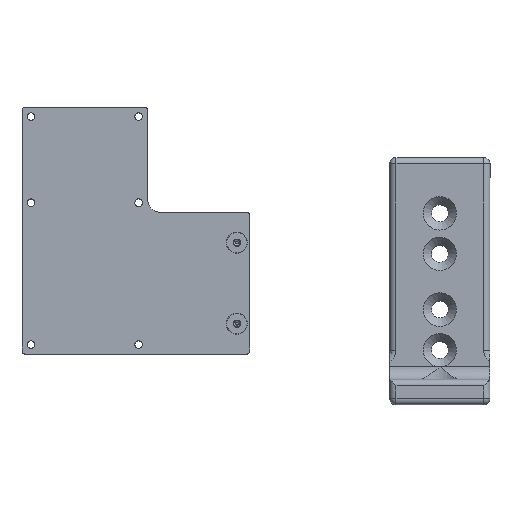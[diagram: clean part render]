
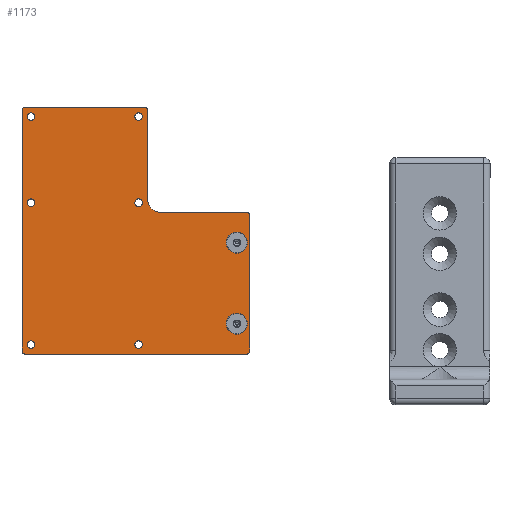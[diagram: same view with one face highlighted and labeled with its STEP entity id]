
A CAD part, top view. The second image highlights one B-rep face of the part: STEP entity #1173.
In plain terms, the highlighted planar face has unit normal (0, 0, 1).
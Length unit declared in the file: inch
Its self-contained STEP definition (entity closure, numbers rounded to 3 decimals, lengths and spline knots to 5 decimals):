
#653=CARTESIAN_POINT('',(38.4668,-2.79607,-11.998));
#654=VERTEX_POINT('',#653);
#655=CARTESIAN_POINT('',(38.4668,-2.58807,-11.998));
#656=DIRECTION('',(0.0,0.0,-1.0));
#657=DIRECTION('',(0.0,-1.0,0.0));
#658=AXIS2_PLACEMENT_3D('',#655,#656,#657);
#659=CIRCLE('',#658,0.208);
#660=EDGE_CURVE('',#654,#654,#659,.T.);
#681=CARTESIAN_POINT('',(38.4668,-4.39607,-11.998));
#682=VERTEX_POINT('',#681);
#683=CARTESIAN_POINT('',(38.4668,-4.18807,-11.998));
#684=DIRECTION('',(0.0,0.0,-1.0));
#685=DIRECTION('',(0.0,-1.0,0.0));
#686=AXIS2_PLACEMENT_3D('',#683,#684,#685);
#687=CIRCLE('',#686,0.208);
#688=EDGE_CURVE('',#682,#682,#687,.T.);
#698=CARTESIAN_POINT('',(36.4538,-4.60007,-11.998));
#699=VERTEX_POINT('',#698);
#700=CARTESIAN_POINT('',(36.5288,-4.60007,-11.998));
#701=DIRECTION('',(0.0,0.0,-1.0));
#702=DIRECTION('',(1.0,0.0,0.0));
#703=AXIS2_PLACEMENT_3D('',#700,#701,#702);
#704=CIRCLE('',#703,0.075);
#705=EDGE_CURVE('',#699,#699,#704,.T.);
#718=CARTESIAN_POINT('',(34.3288,-4.60007,-11.998));
#719=VERTEX_POINT('',#718);
#720=CARTESIAN_POINT('',(34.4038,-4.60007,-11.998));
#721=DIRECTION('',(0.0,0.0,-1.0));
#722=DIRECTION('',(1.0,0.0,0.0));
#723=AXIS2_PLACEMENT_3D('',#720,#721,#722);
#724=CIRCLE('',#723,0.075);
#725=EDGE_CURVE('',#719,#719,#724,.T.);
#738=CARTESIAN_POINT('',(34.3288,-1.80007,-11.998));
#739=VERTEX_POINT('',#738);
#740=CARTESIAN_POINT('',(34.4038,-1.80007,-11.998));
#741=DIRECTION('',(0.0,0.0,-1.0));
#742=DIRECTION('',(1.0,0.0,0.0));
#743=AXIS2_PLACEMENT_3D('',#740,#741,#742);
#744=CIRCLE('',#743,0.075);
#745=EDGE_CURVE('',#739,#739,#744,.T.);
#758=CARTESIAN_POINT('',(36.4538,-1.80007,-11.998));
#759=VERTEX_POINT('',#758);
#760=CARTESIAN_POINT('',(36.5288,-1.80007,-11.998));
#761=DIRECTION('',(0.0,0.0,-1.0));
#762=DIRECTION('',(1.0,0.0,0.0));
#763=AXIS2_PLACEMENT_3D('',#760,#761,#762);
#764=CIRCLE('',#763,0.075);
#765=EDGE_CURVE('',#759,#759,#764,.T.);
#778=CARTESIAN_POINT('',(36.4538,-0.10007,-11.998));
#779=VERTEX_POINT('',#778);
#780=CARTESIAN_POINT('',(36.5288,-0.10007,-11.998));
#781=DIRECTION('',(0.0,0.0,-1.0));
#782=DIRECTION('',(1.0,0.0,0.0));
#783=AXIS2_PLACEMENT_3D('',#780,#781,#782);
#784=CIRCLE('',#783,0.075);
#785=EDGE_CURVE('',#779,#779,#784,.T.);
#798=CARTESIAN_POINT('',(34.3288,-0.10007,-11.998));
#799=VERTEX_POINT('',#798);
#800=CARTESIAN_POINT('',(34.4038,-0.10007,-11.998));
#801=DIRECTION('',(0.0,0.0,-1.0));
#802=DIRECTION('',(1.0,0.0,0.0));
#803=AXIS2_PLACEMENT_3D('',#800,#801,#802);
#804=CIRCLE('',#803,0.075);
#805=EDGE_CURVE('',#799,#799,#804,.T.);
#831=CARTESIAN_POINT('',(36.9568,-1.98807,-11.998));
#832=VERTEX_POINT('',#831);
#839=CARTESIAN_POINT('',(38.6548,-1.98807,-11.998));
#840=VERTEX_POINT('',#839);
#841=CARTESIAN_POINT('',(38.6548,-1.98807,-11.998));
#842=DIRECTION('',(-1.0,0.0,0.0));
#843=VECTOR('',#842,1.698);
#844=LINE('',#841,#843);
#845=EDGE_CURVE('',#840,#832,#844,.T.);
#864=CARTESIAN_POINT('',(36.7068,-1.73807,-11.998));
#865=VERTEX_POINT('',#864);
#872=CARTESIAN_POINT('',(36.9568,-1.73807,-11.998));
#873=DIRECTION('',(0.,0.,-1.));
#874=DIRECTION('',(-0.707,-0.707,0.));
#875=AXIS2_PLACEMENT_3D('',#872,#873,#874);
#876=CIRCLE('',#875,0.25);
#877=EDGE_CURVE('',#832,#865,#876,.T.);
#889=CARTESIAN_POINT('',(36.7068,0.02493,-11.998));
#890=VERTEX_POINT('',#889);
#897=CARTESIAN_POINT('',(36.7068,-1.73807,-11.998));
#898=DIRECTION('',(0.0,1.0,0.0));
#899=VECTOR('',#898,1.763);
#900=LINE('',#897,#899);
#901=EDGE_CURVE('',#865,#890,#900,.T.);
#913=CARTESIAN_POINT('',(36.6448,0.08693,-11.998));
#914=VERTEX_POINT('',#913);
#921=CARTESIAN_POINT('',(36.6448,0.02493,-11.998));
#922=DIRECTION('',(0.,0.,1.0));
#923=DIRECTION('',(0.707,0.707,0.));
#924=AXIS2_PLACEMENT_3D('',#921,#922,#923);
#925=CIRCLE('',#924,0.062);
#926=EDGE_CURVE('',#890,#914,#925,.T.);
#938=CARTESIAN_POINT('',(34.2888,0.08693,-11.998));
#939=VERTEX_POINT('',#938);
#946=CARTESIAN_POINT('',(36.6448,0.08693,-11.998));
#947=DIRECTION('',(-1.0,0.0,0.0));
#948=VECTOR('',#947,2.356);
#949=LINE('',#946,#948);
#950=EDGE_CURVE('',#914,#939,#949,.T.);
#962=CARTESIAN_POINT('',(34.2268,0.02493,-11.998));
#963=VERTEX_POINT('',#962);
#970=CARTESIAN_POINT('',(34.2888,0.02493,-11.998));
#971=DIRECTION('',(0.,0.,1.0));
#972=DIRECTION('',(-0.707,0.707,0.));
#973=AXIS2_PLACEMENT_3D('',#970,#971,#972);
#974=CIRCLE('',#973,0.062);
#975=EDGE_CURVE('',#939,#963,#974,.T.);
#987=CARTESIAN_POINT('',(34.2268,-4.72607,-11.998));
#988=VERTEX_POINT('',#987);
#995=CARTESIAN_POINT('',(34.2268,0.02493,-11.998));
#996=DIRECTION('',(0.0,-1.0,0.0));
#997=VECTOR('',#996,4.751);
#998=LINE('',#995,#997);
#999=EDGE_CURVE('',#963,#988,#998,.T.);
#1011=CARTESIAN_POINT('',(34.2888,-4.78807,-11.998));
#1012=VERTEX_POINT('',#1011);
#1019=CARTESIAN_POINT('',(34.2888,-4.72607,-11.998));
#1020=DIRECTION('',(0.,0.,1.0));
#1021=DIRECTION('',(-0.707,-0.707,0.));
#1022=AXIS2_PLACEMENT_3D('',#1019,#1020,#1021);
#1023=CIRCLE('',#1022,0.062);
#1024=EDGE_CURVE('',#988,#1012,#1023,.T.);
#1038=CARTESIAN_POINT('',(38.6548,-4.78807,-11.998));
#1039=VERTEX_POINT('',#1038);
#1046=CARTESIAN_POINT('',(34.2888,-4.78807,-11.998));
#1047=DIRECTION('',(1.0,0.0,0.0));
#1048=VECTOR('',#1047,4.366);
#1049=LINE('',#1046,#1048);
#1050=EDGE_CURVE('',#1012,#1039,#1049,.T.);
#1061=CARTESIAN_POINT('',(38.7168,-4.72607,-11.998));
#1062=VERTEX_POINT('',#1061);
#1069=CARTESIAN_POINT('',(38.6548,-4.72607,-11.998));
#1070=DIRECTION('',(0.,0.,1.));
#1071=DIRECTION('',(0.707,-0.707,0.));
#1072=AXIS2_PLACEMENT_3D('',#1069,#1070,#1071);
#1073=CIRCLE('',#1072,0.062);
#1074=EDGE_CURVE('',#1039,#1062,#1073,.T.);
#1086=CARTESIAN_POINT('',(38.7168,-2.05007,-11.998));
#1087=VERTEX_POINT('',#1086);
#1094=CARTESIAN_POINT('',(38.7168,-4.72607,-11.998));
#1095=DIRECTION('',(0.0,1.0,0.0));
#1096=VECTOR('',#1095,2.676);
#1097=LINE('',#1094,#1096);
#1098=EDGE_CURVE('',#1062,#1087,#1097,.T.);
#1118=CARTESIAN_POINT('',(38.6548,-2.05007,-11.998));
#1119=DIRECTION('',(0.,0.,1.));
#1120=DIRECTION('',(0.707,0.707,0.));
#1121=AXIS2_PLACEMENT_3D('',#1118,#1119,#1120);
#1122=CIRCLE('',#1121,0.062);
#1123=EDGE_CURVE('',#1087,#840,#1122,.T.);
#1130=CARTESIAN_POINT('',(36.24482,-2.57848,-11.998));
#1131=DIRECTION('',(0.0,0.0,-1.0));
#1132=DIRECTION('',(1.0,0.0,0.0));
#1133=AXIS2_PLACEMENT_3D('',#1130,#1131,#1132);
#1134=PLANE('',#1133);
#1135=ORIENTED_EDGE('',*,*,#1123,.T.);
#1136=ORIENTED_EDGE('',*,*,#845,.T.);
#1137=ORIENTED_EDGE('',*,*,#877,.T.);
#1138=ORIENTED_EDGE('',*,*,#901,.T.);
#1139=ORIENTED_EDGE('',*,*,#926,.T.);
#1140=ORIENTED_EDGE('',*,*,#950,.T.);
#1141=ORIENTED_EDGE('',*,*,#975,.T.);
#1142=ORIENTED_EDGE('',*,*,#999,.T.);
#1143=ORIENTED_EDGE('',*,*,#1024,.T.);
#1144=ORIENTED_EDGE('',*,*,#1050,.T.);
#1145=ORIENTED_EDGE('',*,*,#1074,.T.);
#1146=ORIENTED_EDGE('',*,*,#1098,.T.);
#1147=EDGE_LOOP('',(#1135,#1136,#1137,#1138,#1139,#1140,#1141,#1142,#1143,#1144,#1145,#1146));
#1148=FACE_OUTER_BOUND('',#1147,.T.);
#1149=ORIENTED_EDGE('',*,*,#660,.T.);
#1150=EDGE_LOOP('',(#1149));
#1151=FACE_BOUND('',#1150,.T.);
#1152=ORIENTED_EDGE('',*,*,#688,.T.);
#1153=EDGE_LOOP('',(#1152));
#1154=FACE_BOUND('',#1153,.T.);
#1155=ORIENTED_EDGE('',*,*,#705,.T.);
#1156=EDGE_LOOP('',(#1155));
#1157=FACE_BOUND('',#1156,.T.);
#1158=ORIENTED_EDGE('',*,*,#725,.T.);
#1159=EDGE_LOOP('',(#1158));
#1160=FACE_BOUND('',#1159,.T.);
#1161=ORIENTED_EDGE('',*,*,#745,.T.);
#1162=EDGE_LOOP('',(#1161));
#1163=FACE_BOUND('',#1162,.T.);
#1164=ORIENTED_EDGE('',*,*,#765,.T.);
#1165=EDGE_LOOP('',(#1164));
#1166=FACE_BOUND('',#1165,.T.);
#1167=ORIENTED_EDGE('',*,*,#785,.T.);
#1168=EDGE_LOOP('',(#1167));
#1169=FACE_BOUND('',#1168,.T.);
#1170=ORIENTED_EDGE('',*,*,#805,.T.);
#1171=EDGE_LOOP('',(#1170));
#1172=FACE_BOUND('',#1171,.T.);
#1173=ADVANCED_FACE('',(#1148,#1151,#1154,#1157,#1160,#1163,#1166,#1169,#1172),#1134,.F.);
